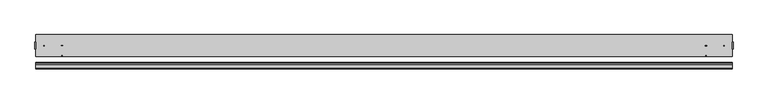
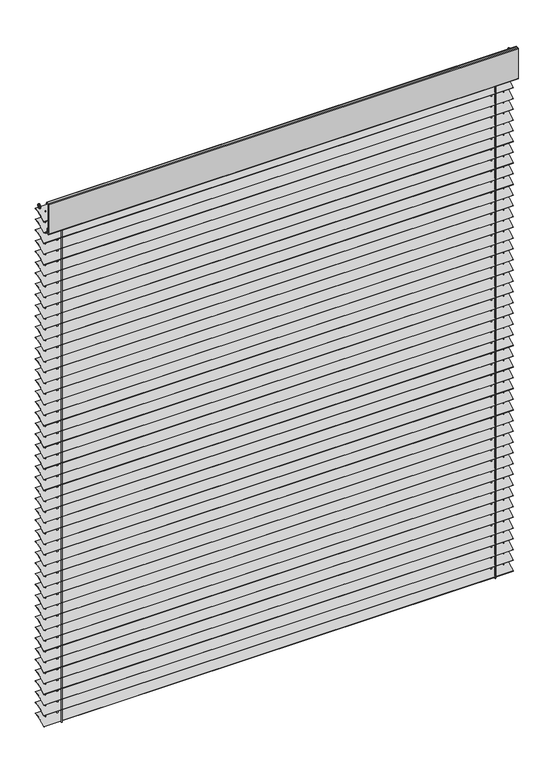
"""IFC4 building model written with IfcOpenShell, lengths in millimetres: proxy geometry, Windows-Blinds Schenker Stores Stores a lamelles Economy EC 70 : Windows-Blinds Schenker Stores Stores a lamelles Economy EC 75."""

from ifc_helpers import new_model, si_unit, point, frame, frame_2d, origin, origin_with_axes, place, context, project, spatial, polyline, circle_curve, trimmed, segment, composite_curve, outline, extrude, source, transform, mapped, element, save


def generic_models_69a6ee1e(model_context):
    return source(origin(), model_context, "Body", "SweptSolid", [
        extrude(outline(composite_curve([segment(trimmed(circle_curve(frame_2d((-18.8646778, 2251.5949116)), 112.7401342), [point((-88.1932392, 2340.4987273))], [point((-22.3317138, 2364.2817233))], False, "CARTESIAN"), True, "CONTINUOUS"), segment(polyline([(-22.3317138, 2364.2817233), (-22.3317138, 2363.2812458)]), True, "CONTINUOUS"), segment(trimmed(circle_curve(frame_2d((-18.8646778, 2251.5949116)), 111.7401342), [point((-22.3317138, 2363.2812458))], [point((-87.5782979, 2339.7101544))], True, "CARTESIAN"), True, "CONTINUOUS"), segment(polyline([(-87.5782979, 2339.7101544), (-88.1932392, 2340.4987273)]), True, "CONTINUOUS")], self_intersect=False)), frame((-1050.0, 0.0, 0.0), z_axis=(1.0, 0.0, 0.0), x_axis=(0.0, 1.0, 0.0)), (0.0, 0.0, 1.0), 2100.0),
        extrude(outline(composite_curve([segment(trimmed(circle_curve(frame_2d((-18.8646778, 2200.8766349)), 112.7401342), [point((-88.1932392, 2289.7804505))], [point((-22.3317138, 2313.5634465))], False, "CARTESIAN"), True, "CONTINUOUS"), segment(polyline([(-22.3317138, 2313.5634465), (-22.3317138, 2312.5629691)]), True, "CONTINUOUS"), segment(trimmed(circle_curve(frame_2d((-18.8646778, 2200.8766349)), 111.7401342), [point((-22.3317138, 2312.5629691))], [point((-87.5782979, 2288.9918776))], True, "CARTESIAN"), True, "CONTINUOUS"), segment(polyline([(-87.5782979, 2288.9918776), (-88.1932392, 2289.7804505)]), True, "CONTINUOUS")], self_intersect=False)), frame((-1050.0, 0.0, 0.0), z_axis=(1.0, 0.0, 0.0), x_axis=(0.0, 1.0, 0.0)), (0.0, 0.0, 1.0), 2100.0),
        extrude(outline(composite_curve([segment(trimmed(circle_curve(frame_2d((-18.8646778, 2150.1583582)), 112.7401342), [point((-88.1932392, 2239.0621738))], [point((-22.3317138, 2262.8451698))], False, "CARTESIAN"), True, "CONTINUOUS"), segment(polyline([(-22.3317138, 2262.8451698), (-22.3317138, 2261.8446923)]), True, "CONTINUOUS"), segment(trimmed(circle_curve(frame_2d((-18.8646778, 2150.1583582)), 111.7401342), [point((-22.3317138, 2261.8446923))], [point((-87.5782979, 2238.2736009))], True, "CARTESIAN"), True, "CONTINUOUS"), segment(polyline([(-87.5782979, 2238.2736009), (-88.1932392, 2239.0621738)]), True, "CONTINUOUS")], self_intersect=False)), frame((-1050.0, 0.0, 0.0), z_axis=(1.0, 0.0, 0.0), x_axis=(0.0, 1.0, 0.0)), (0.0, 0.0, 1.0), 2100.0),
        extrude(outline(composite_curve([segment(trimmed(circle_curve(frame_2d((-18.8646778, 2099.4400814)), 112.7401342), [point((-88.1932392, 2188.343897))], [point((-22.3317138, 2212.126893))], False, "CARTESIAN"), True, "CONTINUOUS"), segment(polyline([(-22.3317138, 2212.126893), (-22.3317138, 2211.1264156)]), True, "CONTINUOUS"), segment(trimmed(circle_curve(frame_2d((-18.8646778, 2099.4400814)), 111.7401342), [point((-22.3317138, 2211.1264156))], [point((-87.5782979, 2187.5553241))], True, "CARTESIAN"), True, "CONTINUOUS"), segment(polyline([(-87.5782979, 2187.5553241), (-88.1932392, 2188.343897)]), True, "CONTINUOUS")], self_intersect=False)), frame((-1050.0, 0.0, 0.0), z_axis=(1.0, 0.0, 0.0), x_axis=(0.0, 1.0, 0.0)), (0.0, 0.0, 1.0), 2100.0),
        extrude(outline(composite_curve([segment(trimmed(circle_curve(frame_2d((-18.8646778, 2048.7218047)), 112.7401342), [point((-88.1932392, 2137.6256203))], [point((-22.3317138, 2161.4086163))], False, "CARTESIAN"), True, "CONTINUOUS"), segment(polyline([(-22.3317138, 2161.4086163), (-22.3317138, 2160.4081389)]), True, "CONTINUOUS"), segment(trimmed(circle_curve(frame_2d((-18.8646778, 2048.7218047)), 111.7401342), [point((-22.3317138, 2160.4081389))], [point((-87.5782979, 2136.8370474))], True, "CARTESIAN"), True, "CONTINUOUS"), segment(polyline([(-87.5782979, 2136.8370474), (-88.1932392, 2137.6256203)]), True, "CONTINUOUS")], self_intersect=False)), frame((-1050.0, 0.0, 0.0), z_axis=(1.0, 0.0, 0.0), x_axis=(0.0, 1.0, 0.0)), (0.0, 0.0, 1.0), 2100.0),
        extrude(outline(composite_curve([segment(trimmed(circle_curve(frame_2d((-18.8646778, 1998.0035279)), 112.7401342), [point((-88.1932392, 2086.9073436))], [point((-22.3317138, 2110.6903395))], False, "CARTESIAN"), True, "CONTINUOUS"), segment(polyline([(-22.3317138, 2110.6903395), (-22.3317138, 2109.6898621)]), True, "CONTINUOUS"), segment(trimmed(circle_curve(frame_2d((-18.8646778, 1998.0035279)), 111.7401342), [point((-22.3317138, 2109.6898621))], [point((-87.5782979, 2086.1187706))], True, "CARTESIAN"), True, "CONTINUOUS"), segment(polyline([(-87.5782979, 2086.1187706), (-88.1932392, 2086.9073436)]), True, "CONTINUOUS")], self_intersect=False)), frame((-1050.0, 0.0, 0.0), z_axis=(1.0, 0.0, 0.0), x_axis=(0.0, 1.0, 0.0)), (0.0, 0.0, 1.0), 2100.0),
        extrude(outline(composite_curve([segment(trimmed(circle_curve(frame_2d((-18.8646778, 1947.2852512)), 112.7401342), [point((-88.1932392, 2036.1890668))], [point((-22.3317138, 2059.9720628))], False, "CARTESIAN"), True, "CONTINUOUS"), segment(polyline([(-22.3317138, 2059.9720628), (-22.3317138, 2058.9715854)]), True, "CONTINUOUS"), segment(trimmed(circle_curve(frame_2d((-18.8646778, 1947.2852512)), 111.7401342), [point((-22.3317138, 2058.9715854))], [point((-87.5782979, 2035.4004939))], True, "CARTESIAN"), True, "CONTINUOUS"), segment(polyline([(-87.5782979, 2035.4004939), (-88.1932392, 2036.1890668)]), True, "CONTINUOUS")], self_intersect=False)), frame((-1050.0, 0.0, 0.0), z_axis=(1.0, 0.0, 0.0), x_axis=(0.0, 1.0, 0.0)), (0.0, 0.0, 1.0), 2100.0),
        extrude(outline(composite_curve([segment(trimmed(circle_curve(frame_2d((-18.8646778, 1896.5669745)), 112.7401342), [point((-88.1932392, 1985.4707901))], [point((-22.3317138, 2009.2537861))], False, "CARTESIAN"), True, "CONTINUOUS"), segment(polyline([(-22.3317138, 2009.2537861), (-22.3317138, 2008.2533086)]), True, "CONTINUOUS"), segment(trimmed(circle_curve(frame_2d((-18.8646778, 1896.5669745)), 111.7401342), [point((-22.3317138, 2008.2533086))], [point((-87.5782979, 1984.6822172))], True, "CARTESIAN"), True, "CONTINUOUS"), segment(polyline([(-87.5782979, 1984.6822172), (-88.1932392, 1985.4707901)]), True, "CONTINUOUS")], self_intersect=False)), frame((-1050.0, 0.0, 0.0), z_axis=(1.0, 0.0, 0.0), x_axis=(0.0, 1.0, 0.0)), (0.0, 0.0, 1.0), 2100.0),
        extrude(outline(composite_curve([segment(trimmed(circle_curve(frame_2d((-18.8646778, 1845.8486977)), 112.7401342), [point((-88.1932392, 1934.7525133))], [point((-22.3317138, 1958.5355093))], False, "CARTESIAN"), True, "CONTINUOUS"), segment(polyline([(-22.3317138, 1958.5355093), (-22.3317138, 1957.5350319)]), True, "CONTINUOUS"), segment(trimmed(circle_curve(frame_2d((-18.8646778, 1845.8486977)), 111.7401342), [point((-22.3317138, 1957.5350319))], [point((-87.5782979, 1933.9639404))], True, "CARTESIAN"), True, "CONTINUOUS"), segment(polyline([(-87.5782979, 1933.9639404), (-88.1932392, 1934.7525133)]), True, "CONTINUOUS")], self_intersect=False)), frame((-1050.0, 0.0, 0.0), z_axis=(1.0, 0.0, 0.0), x_axis=(0.0, 1.0, 0.0)), (0.0, 0.0, 1.0), 2100.0),
        extrude(outline(composite_curve([segment(trimmed(circle_curve(frame_2d((-18.8646778, 1795.130421)), 112.7401342), [point((-88.1932392, 1884.0342366))], [point((-22.3317138, 1907.8172326))], False, "CARTESIAN"), True, "CONTINUOUS"), segment(polyline([(-22.3317138, 1907.8172326), (-22.3317138, 1906.8167551)]), True, "CONTINUOUS"), segment(trimmed(circle_curve(frame_2d((-18.8646778, 1795.130421)), 111.7401342), [point((-22.3317138, 1906.8167551))], [point((-87.5782979, 1883.2456637))], True, "CARTESIAN"), True, "CONTINUOUS"), segment(polyline([(-87.5782979, 1883.2456637), (-88.1932392, 1884.0342366)]), True, "CONTINUOUS")], self_intersect=False)), frame((-1050.0, 0.0, 0.0), z_axis=(1.0, 0.0, 0.0), x_axis=(0.0, 1.0, 0.0)), (0.0, 0.0, 1.0), 2100.0),
        extrude(outline(composite_curve([segment(trimmed(circle_curve(frame_2d((-18.8646778, 1744.4121442)), 112.7401342), [point((-88.1932392, 1833.3159598))], [point((-22.3317138, 1857.0989558))], False, "CARTESIAN"), True, "CONTINUOUS"), segment(polyline([(-22.3317138, 1857.0989558), (-22.3317138, 1856.0984784)]), True, "CONTINUOUS"), segment(trimmed(circle_curve(frame_2d((-18.8646778, 1744.4121442)), 111.7401342), [point((-22.3317138, 1856.0984784))], [point((-87.5782979, 1832.5273869))], True, "CARTESIAN"), True, "CONTINUOUS"), segment(polyline([(-87.5782979, 1832.5273869), (-88.1932392, 1833.3159598)]), True, "CONTINUOUS")], self_intersect=False)), frame((-1050.0, 0.0, 0.0), z_axis=(1.0, 0.0, 0.0), x_axis=(0.0, 1.0, 0.0)), (0.0, 0.0, 1.0), 2100.0),
        extrude(outline(composite_curve([segment(trimmed(circle_curve(frame_2d((-18.8646778, 1693.6938675)), 112.7401342), [point((-88.1932392, 1782.5976831))], [point((-22.3317138, 1806.3806791))], False, "CARTESIAN"), True, "CONTINUOUS"), segment(polyline([(-22.3317138, 1806.3806791), (-22.3317138, 1805.3802017)]), True, "CONTINUOUS"), segment(trimmed(circle_curve(frame_2d((-18.8646778, 1693.6938675)), 111.7401342), [point((-22.3317138, 1805.3802017))], [point((-87.5782979, 1781.8091102))], True, "CARTESIAN"), True, "CONTINUOUS"), segment(polyline([(-87.5782979, 1781.8091102), (-88.1932392, 1782.5976831)]), True, "CONTINUOUS")], self_intersect=False)), frame((-1050.0, 0.0, 0.0), z_axis=(1.0, 0.0, 0.0), x_axis=(0.0, 1.0, 0.0)), (0.0, 0.0, 1.0), 2100.0),
        extrude(outline(composite_curve([segment(trimmed(circle_curve(frame_2d((-18.8646778, 1642.9755907)), 112.7401342), [point((-88.1932392, 1731.8794064))], [point((-22.3317138, 1755.6624023))], False, "CARTESIAN"), True, "CONTINUOUS"), segment(polyline([(-22.3317138, 1755.6624023), (-22.3317138, 1754.6619249)]), True, "CONTINUOUS"), segment(trimmed(circle_curve(frame_2d((-18.8646778, 1642.9755907)), 111.7401342), [point((-22.3317138, 1754.6619249))], [point((-87.5782979, 1731.0908335))], True, "CARTESIAN"), True, "CONTINUOUS"), segment(polyline([(-87.5782979, 1731.0908335), (-88.1932392, 1731.8794064)]), True, "CONTINUOUS")], self_intersect=False)), frame((-1050.0, 0.0, 0.0), z_axis=(1.0, 0.0, 0.0), x_axis=(0.0, 1.0, 0.0)), (0.0, 0.0, 1.0), 2100.0),
        extrude(outline(composite_curve([segment(trimmed(circle_curve(frame_2d((-18.8646778, 1592.257314)), 112.7401342), [point((-88.1932392, 1681.1611296))], [point((-22.3317138, 1704.9441256))], False, "CARTESIAN"), True, "CONTINUOUS"), segment(polyline([(-22.3317138, 1704.9441256), (-22.3317138, 1703.9436482)]), True, "CONTINUOUS"), segment(trimmed(circle_curve(frame_2d((-18.8646778, 1592.257314)), 111.7401342), [point((-22.3317138, 1703.9436482))], [point((-87.5782979, 1680.3725567))], True, "CARTESIAN"), True, "CONTINUOUS"), segment(polyline([(-87.5782979, 1680.3725567), (-88.1932392, 1681.1611296)]), True, "CONTINUOUS")], self_intersect=False)), frame((-1050.0, 0.0, 0.0), z_axis=(1.0, 0.0, 0.0), x_axis=(0.0, 1.0, 0.0)), (0.0, 0.0, 1.0), 2100.0),
        extrude(outline(composite_curve([segment(trimmed(circle_curve(frame_2d((-18.8646778, 1541.5390373)), 112.7401342), [point((-88.1932392, 1630.4428529))], [point((-22.3317138, 1654.2258489))], False, "CARTESIAN"), True, "CONTINUOUS"), segment(polyline([(-22.3317138, 1654.2258489), (-22.3317138, 1653.2253714)]), True, "CONTINUOUS"), segment(trimmed(circle_curve(frame_2d((-18.8646778, 1541.5390373)), 111.7401342), [point((-22.3317138, 1653.2253714))], [point((-87.5782979, 1629.65428))], True, "CARTESIAN"), True, "CONTINUOUS"), segment(polyline([(-87.5782979, 1629.65428), (-88.1932392, 1630.4428529)]), True, "CONTINUOUS")], self_intersect=False)), frame((-1050.0, 0.0, 0.0), z_axis=(1.0, 0.0, 0.0), x_axis=(0.0, 1.0, 0.0)), (0.0, 0.0, 1.0), 2100.0),
        extrude(outline(composite_curve([segment(trimmed(circle_curve(frame_2d((-18.8646778, 1490.8207605)), 112.7401342), [point((-88.1932392, 1579.7245761))], [point((-22.3317138, 1603.5075721))], False, "CARTESIAN"), True, "CONTINUOUS"), segment(polyline([(-22.3317138, 1603.5075721), (-22.3317138, 1602.5070947)]), True, "CONTINUOUS"), segment(trimmed(circle_curve(frame_2d((-18.8646778, 1490.8207605)), 111.7401342), [point((-22.3317138, 1602.5070947))], [point((-87.5782979, 1578.9360032))], True, "CARTESIAN"), True, "CONTINUOUS"), segment(polyline([(-87.5782979, 1578.9360032), (-88.1932392, 1579.7245761)]), True, "CONTINUOUS")], self_intersect=False)), frame((-1050.0, 0.0, 0.0), z_axis=(1.0, 0.0, 0.0), x_axis=(0.0, 1.0, 0.0)), (0.0, 0.0, 1.0), 2100.0),
        extrude(outline(composite_curve([segment(trimmed(circle_curve(frame_2d((-18.8646778, 1440.1024838)), 112.7401342), [point((-88.1932392, 1529.0062994))], [point((-22.3317138, 1552.7892954))], False, "CARTESIAN"), True, "CONTINUOUS"), segment(polyline([(-22.3317138, 1552.7892954), (-22.3317138, 1551.788818)]), True, "CONTINUOUS"), segment(trimmed(circle_curve(frame_2d((-18.8646778, 1440.1024838)), 111.7401342), [point((-22.3317138, 1551.788818))], [point((-87.5782979, 1528.2177265))], True, "CARTESIAN"), True, "CONTINUOUS"), segment(polyline([(-87.5782979, 1528.2177265), (-88.1932392, 1529.0062994)]), True, "CONTINUOUS")], self_intersect=False)), frame((-1050.0, 0.0, 0.0), z_axis=(1.0, 0.0, 0.0), x_axis=(0.0, 1.0, 0.0)), (0.0, 0.0, 1.0), 2100.0),
        extrude(outline(composite_curve([segment(trimmed(circle_curve(frame_2d((-18.8646778, 1389.384207)), 112.7401342), [point((-88.1932392, 1478.2880227))], [point((-22.3317138, 1502.0710186))], False, "CARTESIAN"), True, "CONTINUOUS"), segment(polyline([(-22.3317138, 1502.0710186), (-22.3317138, 1501.0705412)]), True, "CONTINUOUS"), segment(trimmed(circle_curve(frame_2d((-18.8646778, 1389.384207)), 111.7401342), [point((-22.3317138, 1501.0705412))], [point((-87.5782979, 1477.4994497))], True, "CARTESIAN"), True, "CONTINUOUS"), segment(polyline([(-87.5782979, 1477.4994497), (-88.1932392, 1478.2880227)]), True, "CONTINUOUS")], self_intersect=False)), frame((-1050.0, 0.0, 0.0), z_axis=(1.0, 0.0, 0.0), x_axis=(0.0, 1.0, 0.0)), (0.0, 0.0, 1.0), 2100.0),
        extrude(outline(composite_curve([segment(trimmed(circle_curve(frame_2d((-18.8646778, 1338.6659303)), 112.7401342), [point((-88.1932392, 1427.5697459))], [point((-22.3317138, 1451.3527419))], False, "CARTESIAN"), True, "CONTINUOUS"), segment(polyline([(-22.3317138, 1451.3527419), (-22.3317138, 1450.3522645)]), True, "CONTINUOUS"), segment(trimmed(circle_curve(frame_2d((-18.8646778, 1338.6659303)), 111.7401342), [point((-22.3317138, 1450.3522645))], [point((-87.5782979, 1426.781173))], True, "CARTESIAN"), True, "CONTINUOUS"), segment(polyline([(-87.5782979, 1426.781173), (-88.1932392, 1427.5697459)]), True, "CONTINUOUS")], self_intersect=False)), frame((-1050.0, 0.0, 0.0), z_axis=(1.0, 0.0, 0.0), x_axis=(0.0, 1.0, 0.0)), (0.0, 0.0, 1.0), 2100.0),
        extrude(outline(composite_curve([segment(trimmed(circle_curve(frame_2d((-18.8646778, 1287.9476535)), 112.7401342), [point((-88.1932392, 1376.8514692))], [point((-22.3317138, 1400.6344652))], False, "CARTESIAN"), True, "CONTINUOUS"), segment(polyline([(-22.3317138, 1400.6344652), (-22.3317138, 1399.6339877)]), True, "CONTINUOUS"), segment(trimmed(circle_curve(frame_2d((-18.8646778, 1287.9476535)), 111.7401342), [point((-22.3317138, 1399.6339877))], [point((-87.5782979, 1376.0628963))], True, "CARTESIAN"), True, "CONTINUOUS"), segment(polyline([(-87.5782979, 1376.0628963), (-88.1932392, 1376.8514692)]), True, "CONTINUOUS")], self_intersect=False)), frame((-1050.0, 0.0, 0.0), z_axis=(1.0, 0.0, 0.0), x_axis=(0.0, 1.0, 0.0)), (0.0, 0.0, 1.0), 2100.0),
        extrude(outline(composite_curve([segment(trimmed(circle_curve(frame_2d((-18.8646778, 1237.2293768)), 112.7401342), [point((-88.1932392, 1326.1331924))], [point((-22.3317138, 1349.9161884))], False, "CARTESIAN"), True, "CONTINUOUS"), segment(polyline([(-22.3317138, 1349.9161884), (-22.3317138, 1348.915711)]), True, "CONTINUOUS"), segment(trimmed(circle_curve(frame_2d((-18.8646778, 1237.2293768)), 111.7401342), [point((-22.3317138, 1348.915711))], [point((-87.5782979, 1325.3446195))], True, "CARTESIAN"), True, "CONTINUOUS"), segment(polyline([(-87.5782979, 1325.3446195), (-88.1932392, 1326.1331924)]), True, "CONTINUOUS")], self_intersect=False)), frame((-1050.0, 0.0, 0.0), z_axis=(1.0, 0.0, 0.0), x_axis=(0.0, 1.0, 0.0)), (0.0, 0.0, 1.0), 2100.0),
        extrude(outline(composite_curve([segment(trimmed(circle_curve(frame_2d((-18.8646778, 1186.5111001)), 112.7401342), [point((-88.1932392, 1275.4149157))], [point((-22.3317138, 1299.1979117))], False, "CARTESIAN"), True, "CONTINUOUS"), segment(polyline([(-22.3317138, 1299.1979117), (-22.3317138, 1298.1974342)]), True, "CONTINUOUS"), segment(trimmed(circle_curve(frame_2d((-18.8646778, 1186.5111001)), 111.7401342), [point((-22.3317138, 1298.1974342))], [point((-87.5782979, 1274.6263428))], True, "CARTESIAN"), True, "CONTINUOUS"), segment(polyline([(-87.5782979, 1274.6263428), (-88.1932392, 1275.4149157)]), True, "CONTINUOUS")], self_intersect=False)), frame((-1050.0, 0.0, 0.0), z_axis=(1.0, 0.0, 0.0), x_axis=(0.0, 1.0, 0.0)), (0.0, 0.0, 1.0), 2100.0),
        extrude(outline(composite_curve([segment(trimmed(circle_curve(frame_2d((-18.8646778, 1135.7928233)), 112.7401342), [point((-88.1932392, 1224.6966389))], [point((-22.3317138, 1248.4796349))], False, "CARTESIAN"), True, "CONTINUOUS"), segment(polyline([(-22.3317138, 1248.4796349), (-22.3317138, 1247.4791575)]), True, "CONTINUOUS"), segment(trimmed(circle_curve(frame_2d((-18.8646778, 1135.7928233)), 111.7401342), [point((-22.3317138, 1247.4791575))], [point((-87.5782979, 1223.908066))], True, "CARTESIAN"), True, "CONTINUOUS"), segment(polyline([(-87.5782979, 1223.908066), (-88.1932392, 1224.6966389)]), True, "CONTINUOUS")], self_intersect=False)), frame((-1050.0, 0.0, 0.0), z_axis=(1.0, 0.0, 0.0), x_axis=(0.0, 1.0, 0.0)), (0.0, 0.0, 1.0), 2100.0),
        extrude(outline(composite_curve([segment(trimmed(circle_curve(frame_2d((-18.8646778, 1085.0745466)), 112.7401342), [point((-88.1932392, 1173.9783622))], [point((-22.3317138, 1197.7613582))], False, "CARTESIAN"), True, "CONTINUOUS"), segment(polyline([(-22.3317138, 1197.7613582), (-22.3317138, 1196.7608808)]), True, "CONTINUOUS"), segment(trimmed(circle_curve(frame_2d((-18.8646778, 1085.0745466)), 111.7401342), [point((-22.3317138, 1196.7608808))], [point((-87.5782979, 1173.1897893))], True, "CARTESIAN"), True, "CONTINUOUS"), segment(polyline([(-87.5782979, 1173.1897893), (-88.1932392, 1173.9783622)]), True, "CONTINUOUS")], self_intersect=False)), frame((-1050.0, 0.0, 0.0), z_axis=(1.0, 0.0, 0.0), x_axis=(0.0, 1.0, 0.0)), (0.0, 0.0, 1.0), 2100.0),
        extrude(outline(composite_curve([segment(trimmed(circle_curve(frame_2d((-18.8646778, 1034.3562698)), 112.7401342), [point((-88.1932392, 1123.2600855))], [point((-22.3317138, 1147.0430814))], False, "CARTESIAN"), True, "CONTINUOUS"), segment(polyline([(-22.3317138, 1147.0430814), (-22.3317138, 1146.042604)]), True, "CONTINUOUS"), segment(trimmed(circle_curve(frame_2d((-18.8646778, 1034.3562698)), 111.7401342), [point((-22.3317138, 1146.042604))], [point((-87.5782979, 1122.4715125))], True, "CARTESIAN"), True, "CONTINUOUS"), segment(polyline([(-87.5782979, 1122.4715125), (-88.1932392, 1123.2600855)]), True, "CONTINUOUS")], self_intersect=False)), frame((-1050.0, 0.0, 0.0), z_axis=(1.0, 0.0, 0.0), x_axis=(0.0, 1.0, 0.0)), (0.0, 0.0, 1.0), 2100.0),
        extrude(outline(composite_curve([segment(trimmed(circle_curve(frame_2d((-18.8646778, 983.6379931)), 112.7401342), [point((-88.1932392, 1072.5418087))], [point((-22.3317138, 1096.3248047))], False, "CARTESIAN"), True, "CONTINUOUS"), segment(polyline([(-22.3317138, 1096.3248047), (-22.3317138, 1095.3243273)]), True, "CONTINUOUS"), segment(trimmed(circle_curve(frame_2d((-18.8646778, 983.6379931)), 111.7401342), [point((-22.3317138, 1095.3243273))], [point((-87.5782979, 1071.7532358))], True, "CARTESIAN"), True, "CONTINUOUS"), segment(polyline([(-87.5782979, 1071.7532358), (-88.1932392, 1072.5418087)]), True, "CONTINUOUS")], self_intersect=False)), frame((-1050.0, 0.0, 0.0), z_axis=(1.0, 0.0, 0.0), x_axis=(0.0, 1.0, 0.0)), (0.0, 0.0, 1.0), 2100.0),
        extrude(outline(composite_curve([segment(trimmed(circle_curve(frame_2d((-18.8646778, 932.9197163)), 112.7401342), [point((-88.1932392, 1021.823532))], [point((-22.3317138, 1045.606528))], False, "CARTESIAN"), True, "CONTINUOUS"), segment(polyline([(-22.3317138, 1045.606528), (-22.3317138, 1044.6060505)]), True, "CONTINUOUS"), segment(trimmed(circle_curve(frame_2d((-18.8646778, 932.9197163)), 111.7401342), [point((-22.3317138, 1044.6060505))], [point((-87.5782979, 1021.0349591))], True, "CARTESIAN"), True, "CONTINUOUS"), segment(polyline([(-87.5782979, 1021.0349591), (-88.1932392, 1021.823532)]), True, "CONTINUOUS")], self_intersect=False)), frame((-1050.0, 0.0, 0.0), z_axis=(1.0, 0.0, 0.0), x_axis=(0.0, 1.0, 0.0)), (0.0, 0.0, 1.0), 2100.0),
        extrude(outline(composite_curve([segment(trimmed(circle_curve(frame_2d((-18.8646778, 882.2014396)), 112.7401342), [point((-88.1932392, 971.1052552))], [point((-22.3317138, 994.8882512))], False, "CARTESIAN"), True, "CONTINUOUS"), segment(polyline([(-22.3317138, 994.8882512), (-22.3317138, 993.8877738)]), True, "CONTINUOUS"), segment(trimmed(circle_curve(frame_2d((-18.8646778, 882.2014396)), 111.7401342), [point((-22.3317138, 993.8877738))], [point((-87.5782979, 970.3166823))], True, "CARTESIAN"), True, "CONTINUOUS"), segment(polyline([(-87.5782979, 970.3166823), (-88.1932392, 971.1052552)]), True, "CONTINUOUS")], self_intersect=False)), frame((-1050.0, 0.0, 0.0), z_axis=(1.0, 0.0, 0.0), x_axis=(0.0, 1.0, 0.0)), (0.0, 0.0, 1.0), 2100.0),
        extrude(outline(composite_curve([segment(trimmed(circle_curve(frame_2d((-18.8646778, 831.4831629)), 112.7401342), [point((-88.1932392, 920.3869785))], [point((-22.3317138, 944.1699745))], False, "CARTESIAN"), True, "CONTINUOUS"), segment(polyline([(-22.3317138, 944.1699745), (-22.3317138, 943.169497)]), True, "CONTINUOUS"), segment(trimmed(circle_curve(frame_2d((-18.8646778, 831.4831629)), 111.7401342), [point((-22.3317138, 943.169497))], [point((-87.5782979, 919.5984056))], True, "CARTESIAN"), True, "CONTINUOUS"), segment(polyline([(-87.5782979, 919.5984056), (-88.1932392, 920.3869785)]), True, "CONTINUOUS")], self_intersect=False)), frame((-1050.0, 0.0, 0.0), z_axis=(1.0, 0.0, 0.0), x_axis=(0.0, 1.0, 0.0)), (0.0, 0.0, 1.0), 2100.0),
        extrude(outline(composite_curve([segment(trimmed(circle_curve(frame_2d((-18.8646778, 780.7648861)), 112.7401342), [point((-88.1932392, 869.6687017))], [point((-22.3317138, 893.4516977))], False, "CARTESIAN"), True, "CONTINUOUS"), segment(polyline([(-22.3317138, 893.4516977), (-22.3317138, 892.4512203)]), True, "CONTINUOUS"), segment(trimmed(circle_curve(frame_2d((-18.8646778, 780.7648861)), 111.7401342), [point((-22.3317138, 892.4512203))], [point((-87.5782979, 868.8801288))], True, "CARTESIAN"), True, "CONTINUOUS"), segment(polyline([(-87.5782979, 868.8801288), (-88.1932392, 869.6687017)]), True, "CONTINUOUS")], self_intersect=False)), frame((-1050.0, 0.0, 0.0), z_axis=(1.0, 0.0, 0.0), x_axis=(0.0, 1.0, 0.0)), (0.0, 0.0, 1.0), 2100.0),
        extrude(outline(composite_curve([segment(trimmed(circle_curve(frame_2d((-18.8646778, 730.0466094)), 112.7401342), [point((-88.1932392, 818.950425))], [point((-22.3317138, 842.733421))], False, "CARTESIAN"), True, "CONTINUOUS"), segment(polyline([(-22.3317138, 842.733421), (-22.3317138, 841.7329436)]), True, "CONTINUOUS"), segment(trimmed(circle_curve(frame_2d((-18.8646778, 730.0466094)), 111.7401342), [point((-22.3317138, 841.7329436))], [point((-87.5782979, 818.1618521))], True, "CARTESIAN"), True, "CONTINUOUS"), segment(polyline([(-87.5782979, 818.1618521), (-88.1932392, 818.950425)]), True, "CONTINUOUS")], self_intersect=False)), frame((-1050.0, 0.0, 0.0), z_axis=(1.0, 0.0, 0.0), x_axis=(0.0, 1.0, 0.0)), (0.0, 0.0, 1.0), 2100.0),
        extrude(outline(composite_curve([segment(trimmed(circle_curve(frame_2d((-18.8646778, 679.3283326)), 112.7401342), [point((-88.1932392, 768.2321483))], [point((-22.3317138, 792.0151442))], False, "CARTESIAN"), True, "CONTINUOUS"), segment(polyline([(-22.3317138, 792.0151442), (-22.3317138, 791.0146668)]), True, "CONTINUOUS"), segment(trimmed(circle_curve(frame_2d((-18.8646778, 679.3283326)), 111.7401342), [point((-22.3317138, 791.0146668))], [point((-87.5782979, 767.4435753))], True, "CARTESIAN"), True, "CONTINUOUS"), segment(polyline([(-87.5782979, 767.4435753), (-88.1932392, 768.2321483)]), True, "CONTINUOUS")], self_intersect=False)), frame((-1050.0, 0.0, 0.0), z_axis=(1.0, 0.0, 0.0), x_axis=(0.0, 1.0, 0.0)), (0.0, 0.0, 1.0), 2100.0),
        extrude(outline(composite_curve([segment(trimmed(circle_curve(frame_2d((-18.8646778, 628.6100559)), 112.7401342), [point((-88.1932392, 717.5138715))], [point((-22.3317138, 741.2968675))], False, "CARTESIAN"), True, "CONTINUOUS"), segment(polyline([(-22.3317138, 741.2968675), (-22.3317138, 740.2963901)]), True, "CONTINUOUS"), segment(trimmed(circle_curve(frame_2d((-18.8646778, 628.6100559)), 111.7401342), [point((-22.3317138, 740.2963901))], [point((-87.5782979, 716.7252986))], True, "CARTESIAN"), True, "CONTINUOUS"), segment(polyline([(-87.5782979, 716.7252986), (-88.1932392, 717.5138715)]), True, "CONTINUOUS")], self_intersect=False)), frame((-1050.0, 0.0, 0.0), z_axis=(1.0, 0.0, 0.0), x_axis=(0.0, 1.0, 0.0)), (0.0, 0.0, 1.0), 2100.0),
        extrude(outline(composite_curve([segment(trimmed(circle_curve(frame_2d((-18.8646778, 577.8917792)), 112.7401342), [point((-88.1932392, 666.7955948))], [point((-22.3317138, 690.5785908))], False, "CARTESIAN"), True, "CONTINUOUS"), segment(polyline([(-22.3317138, 690.5785908), (-22.3317138, 689.5781133)]), True, "CONTINUOUS"), segment(trimmed(circle_curve(frame_2d((-18.8646778, 577.8917792)), 111.7401342), [point((-22.3317138, 689.5781133))], [point((-87.5782979, 666.0070219))], True, "CARTESIAN"), True, "CONTINUOUS"), segment(polyline([(-87.5782979, 666.0070219), (-88.1932392, 666.7955948)]), True, "CONTINUOUS")], self_intersect=False)), frame((-1050.0, 0.0, 0.0), z_axis=(1.0, 0.0, 0.0), x_axis=(0.0, 1.0, 0.0)), (0.0, 0.0, 1.0), 2100.0),
        extrude(outline(composite_curve([segment(trimmed(circle_curve(frame_2d((-18.8646778, 527.1735024)), 112.7401342), [point((-88.1932392, 616.077318))], [point((-22.3317138, 639.860314))], False, "CARTESIAN"), True, "CONTINUOUS"), segment(polyline([(-22.3317138, 639.860314), (-22.3317138, 638.8598366)]), True, "CONTINUOUS"), segment(trimmed(circle_curve(frame_2d((-18.8646778, 527.1735024)), 111.7401342), [point((-22.3317138, 638.8598366))], [point((-87.5782979, 615.2887451))], True, "CARTESIAN"), True, "CONTINUOUS"), segment(polyline([(-87.5782979, 615.2887451), (-88.1932392, 616.077318)]), True, "CONTINUOUS")], self_intersect=False)), frame((-1050.0, 0.0, 0.0), z_axis=(1.0, 0.0, 0.0), x_axis=(0.0, 1.0, 0.0)), (0.0, 0.0, 1.0), 2100.0),
        extrude(outline(composite_curve([segment(trimmed(circle_curve(frame_2d((-18.8646778, 476.4552257)), 112.7401342), [point((-88.1932392, 565.3590413))], [point((-22.3317138, 589.1420373))], False, "CARTESIAN"), True, "CONTINUOUS"), segment(polyline([(-22.3317138, 589.1420373), (-22.3317138, 588.1415598)]), True, "CONTINUOUS"), segment(trimmed(circle_curve(frame_2d((-18.8646778, 476.4552257)), 111.7401342), [point((-22.3317138, 588.1415598))], [point((-87.5782979, 564.5704684))], True, "CARTESIAN"), True, "CONTINUOUS"), segment(polyline([(-87.5782979, 564.5704684), (-88.1932392, 565.3590413)]), True, "CONTINUOUS")], self_intersect=False)), frame((-1050.0, 0.0, 0.0), z_axis=(1.0, 0.0, 0.0), x_axis=(0.0, 1.0, 0.0)), (0.0, 0.0, 1.0), 2100.0),
        extrude(outline(composite_curve([segment(trimmed(circle_curve(frame_2d((-18.8646778, 425.7369489)), 112.7401342), [point((-88.1932392, 514.6407645))], [point((-22.3317138, 538.4237605))], False, "CARTESIAN"), True, "CONTINUOUS"), segment(polyline([(-22.3317138, 538.4237605), (-22.3317138, 537.4232831)]), True, "CONTINUOUS"), segment(trimmed(circle_curve(frame_2d((-18.8646778, 425.7369489)), 111.7401342), [point((-22.3317138, 537.4232831))], [point((-87.5782979, 513.8521916))], True, "CARTESIAN"), True, "CONTINUOUS"), segment(polyline([(-87.5782979, 513.8521916), (-88.1932392, 514.6407645)]), True, "CONTINUOUS")], self_intersect=False)), frame((-1050.0, 0.0, 0.0), z_axis=(1.0, 0.0, 0.0), x_axis=(0.0, 1.0, 0.0)), (0.0, 0.0, 1.0), 2100.0),
        extrude(outline(composite_curve([segment(trimmed(circle_curve(frame_2d((-18.8646778, 375.0186722)), 112.7401342), [point((-88.1932392, 463.9224878))], [point((-22.3317138, 487.7054838))], False, "CARTESIAN"), True, "CONTINUOUS"), segment(polyline([(-22.3317138, 487.7054838), (-22.3317138, 486.7050064)]), True, "CONTINUOUS"), segment(trimmed(circle_curve(frame_2d((-18.8646778, 375.0186722)), 111.7401342), [point((-22.3317138, 486.7050064))], [point((-87.5782979, 463.1339149))], True, "CARTESIAN"), True, "CONTINUOUS"), segment(polyline([(-87.5782979, 463.1339149), (-88.1932392, 463.9224878)]), True, "CONTINUOUS")], self_intersect=False)), frame((-1050.0, 0.0, 0.0), z_axis=(1.0, 0.0, 0.0), x_axis=(0.0, 1.0, 0.0)), (0.0, 0.0, 1.0), 2100.0),
        extrude(outline(composite_curve([segment(trimmed(circle_curve(frame_2d((-18.8646778, 324.3003954)), 112.7401342), [point((-88.1932392, 413.2042111))], [point((-22.3317138, 436.987207))], False, "CARTESIAN"), True, "CONTINUOUS"), segment(polyline([(-22.3317138, 436.987207), (-22.3317138, 435.9867296)]), True, "CONTINUOUS"), segment(trimmed(circle_curve(frame_2d((-18.8646778, 324.3003954)), 111.7401342), [point((-22.3317138, 435.9867296))], [point((-87.5782979, 412.4156382))], True, "CARTESIAN"), True, "CONTINUOUS"), segment(polyline([(-87.5782979, 412.4156382), (-88.1932392, 413.2042111)]), True, "CONTINUOUS")], self_intersect=False)), frame((-1050.0, 0.0, 0.0), z_axis=(1.0, 0.0, 0.0), x_axis=(0.0, 1.0, 0.0)), (0.0, 0.0, 1.0), 2100.0),
        extrude(outline(composite_curve([segment(trimmed(circle_curve(frame_2d((-18.8646778, 273.5821187)), 112.7401342), [point((-88.1932392, 362.4859343))], [point((-22.3317138, 386.2689303))], False, "CARTESIAN"), True, "CONTINUOUS"), segment(polyline([(-22.3317138, 386.2689303), (-22.3317138, 385.2684529)]), True, "CONTINUOUS"), segment(trimmed(circle_curve(frame_2d((-18.8646778, 273.5821187)), 111.7401342), [point((-22.3317138, 385.2684529))], [point((-87.5782979, 361.6973614))], True, "CARTESIAN"), True, "CONTINUOUS"), segment(polyline([(-87.5782979, 361.6973614), (-88.1932392, 362.4859343)]), True, "CONTINUOUS")], self_intersect=False)), frame((-1050.0, 0.0, 0.0), z_axis=(1.0, 0.0, 0.0), x_axis=(0.0, 1.0, 0.0)), (0.0, 0.0, 1.0), 2100.0),
        extrude(outline(composite_curve([segment(trimmed(circle_curve(frame_2d((-18.8646778, 222.863842)), 112.7401342), [point((-88.1932392, 311.7676576))], [point((-22.3317138, 335.5506536))], False, "CARTESIAN"), True, "CONTINUOUS"), segment(polyline([(-22.3317138, 335.5506536), (-22.3317138, 334.5501761)]), True, "CONTINUOUS"), segment(trimmed(circle_curve(frame_2d((-18.8646778, 222.863842)), 111.7401342), [point((-22.3317138, 334.5501761))], [point((-87.5782979, 310.9790847))], True, "CARTESIAN"), True, "CONTINUOUS"), segment(polyline([(-87.5782979, 310.9790847), (-88.1932392, 311.7676576)]), True, "CONTINUOUS")], self_intersect=False)), frame((-1050.0, 0.0, 0.0), z_axis=(1.0, 0.0, 0.0), x_axis=(0.0, 1.0, 0.0)), (0.0, 0.0, 1.0), 2100.0),
        extrude(outline(composite_curve([segment(trimmed(circle_curve(frame_2d((-18.8646778, 172.1455652)), 112.7401342), [point((-88.1932392, 261.0493808))], [point((-22.3317138, 284.8323768))], False, "CARTESIAN"), True, "CONTINUOUS"), segment(polyline([(-22.3317138, 284.8323768), (-22.3317138, 283.8318994)]), True, "CONTINUOUS"), segment(trimmed(circle_curve(frame_2d((-18.8646778, 172.1455652)), 111.7401342), [point((-22.3317138, 283.8318994))], [point((-87.5782979, 260.2608079))], True, "CARTESIAN"), True, "CONTINUOUS"), segment(polyline([(-87.5782979, 260.2608079), (-88.1932392, 261.0493808)]), True, "CONTINUOUS")], self_intersect=False)), frame((-1050.0, 0.0, 0.0), z_axis=(1.0, 0.0, 0.0), x_axis=(0.0, 1.0, 0.0)), (0.0, 0.0, 1.0), 2100.0),
        extrude(outline(composite_curve([segment(trimmed(circle_curve(frame_2d((-18.8646778, 121.4272885)), 112.7401342), [point((-88.1932392, 210.3311041))], [point((-22.3317138, 234.1141001))], False, "CARTESIAN"), True, "CONTINUOUS"), segment(polyline([(-22.3317138, 234.1141001), (-22.3317138, 233.1136226)]), True, "CONTINUOUS"), segment(trimmed(circle_curve(frame_2d((-18.8646778, 121.4272885)), 111.7401342), [point((-22.3317138, 233.1136226))], [point((-87.5782979, 209.5425312))], True, "CARTESIAN"), True, "CONTINUOUS"), segment(polyline([(-87.5782979, 209.5425312), (-88.1932392, 210.3311041)]), True, "CONTINUOUS")], self_intersect=False)), frame((-1050.0, 0.0, 0.0), z_axis=(1.0, 0.0, 0.0), x_axis=(0.0, 1.0, 0.0)), (0.0, 0.0, 1.0), 2100.0),
        extrude(outline(composite_curve([segment(trimmed(circle_curve(frame_2d((-18.8646778, 70.7090117)), 112.7401342), [point((-88.1932392, 159.6128274))], [point((-22.3317138, 183.3958233))], False, "CARTESIAN"), True, "CONTINUOUS"), segment(polyline([(-22.3317138, 183.3958233), (-22.3317138, 182.3953459)]), True, "CONTINUOUS"), segment(trimmed(circle_curve(frame_2d((-18.8646778, 70.7090117)), 111.7401342), [point((-22.3317138, 182.3953459))], [point((-87.5782979, 158.8242544))], True, "CARTESIAN"), True, "CONTINUOUS"), segment(polyline([(-87.5782979, 158.8242544), (-88.1932392, 159.6128274)]), True, "CONTINUOUS")], self_intersect=False)), frame((-1050.0, 0.0, 0.0), z_axis=(1.0, 0.0, 0.0), x_axis=(0.0, 1.0, 0.0)), (0.0, 0.0, 1.0), 2100.0),
        extrude(outline(composite_curve([segment(trimmed(circle_curve(frame_2d((-18.8646778, 19.990735)), 112.7401342), [point((-88.1932392, 108.8945506))], [point((-22.3317138, 132.6775466))], False, "CARTESIAN"), True, "CONTINUOUS"), segment(polyline([(-22.3317138, 132.6775466), (-22.3317138, 131.6770692)]), True, "CONTINUOUS"), segment(trimmed(circle_curve(frame_2d((-18.8646778, 19.990735)), 111.7401342), [point((-22.3317138, 131.6770692))], [point((-87.5782979, 108.1059777))], True, "CARTESIAN"), True, "CONTINUOUS"), segment(polyline([(-87.5782979, 108.1059777), (-88.1932392, 108.8945506)]), True, "CONTINUOUS")], self_intersect=False)), frame((-1050.0, 0.0, 0.0), z_axis=(1.0, 0.0, 0.0), x_axis=(0.0, 1.0, 0.0)), (0.0, 0.0, 1.0), 2100.0),
        extrude(outline(composite_curve([segment(trimmed(circle_curve(frame_2d((-18.8646778, -30.7275418)), 112.7401342), [point((-88.1932392, 58.1762739))], [point((-22.3317138, 81.9592699))], False, "CARTESIAN"), True, "CONTINUOUS"), segment(polyline([(-22.3317138, 81.9592699), (-22.3317138, 80.9587924)]), True, "CONTINUOUS"), segment(trimmed(circle_curve(frame_2d((-18.8646778, -30.7275418)), 111.7401342), [point((-22.3317138, 80.9587924))], [point((-87.5782979, 57.387701))], True, "CARTESIAN"), True, "CONTINUOUS"), segment(polyline([(-87.5782979, 57.387701), (-88.1932392, 58.1762739)]), True, "CONTINUOUS")], self_intersect=False)), frame((-1050.0, 0.0, 0.0), z_axis=(1.0, 0.0, 0.0), x_axis=(0.0, 1.0, 0.0)), (0.0, 0.0, 1.0), 2100.0),
        extrude(outline(composite_curve([segment(trimmed(circle_curve(frame_2d((-18.8646778, 2302.3131884)), 112.7401342), [point((-88.1932392, 2391.217004))], [point((-22.3317138, 2415.0))], False, "CARTESIAN"), True, "CONTINUOUS"), segment(polyline([(-22.3317138, 2415.0), (-22.3317138, 2413.9995226)]), True, "CONTINUOUS"), segment(trimmed(circle_curve(frame_2d((-18.8646778, 2302.3131884)), 111.7401342), [point((-22.3317138, 2413.9995226))], [point((-87.5782979, 2390.4284311))], True, "CARTESIAN"), True, "CONTINUOUS"), segment(polyline([(-87.5782979, 2390.4284311), (-88.1932392, 2391.217004)]), True, "CONTINUOUS")], self_intersect=False)), frame((-1050.0, 0.0, 0.0), z_axis=(1.0, 0.0, 0.0), x_axis=(0.0, 1.0, 0.0)), (0.0, 0.0, 1.0), 2100.0),
        extrude(outline(polyline([(-1023.7246781, -54.667671), (-1023.7246781, -55.5704874), (-1025.0, -55.5704874), (-1025.0, -54.667671), (-1023.7246781, -54.667671)])), origin_with_axes(), (0.0, 0.0, 1.0), 2415.0),
        extrude(outline(polyline([(-967.7873221, -54.6676648), (-967.7873221, -55.5276502), (-972.5868112, -55.5276502), (-972.5868112, -54.6676648), (-967.7873221, -54.6676648)])), origin_with_axes(), (0.0, 0.0, 1.0), 2415.0),
        extrude(outline(polyline([(1023.7246781, -54.667671), (1025.0, -54.667671), (1025.0, -55.5704874), (1023.7246781, -55.5704874), (1023.7246781, -54.667671)])), origin_with_axes(), (0.0, 0.0, 1.0), 2415.0),
        extrude(outline(polyline([(967.7873221, -54.6676648), (972.5868112, -54.6676648), (972.5868112, -55.5704806), (967.7873221, -55.5704806), (967.7873221, -54.6676648)])), origin_with_axes(), (0.0, 0.0, 1.0), 2415.0),
        extrude(outline(polyline([(-968.8882367, -88.2983427), (-971.3882294, -88.2983427), (-971.3882294, -85.5983427), (-968.8882367, -85.5983427), (-968.8882367, -88.2983427)])), origin_with_axes(), (0.0, 0.0, 1.0), 2415.0),
        extrude(outline(polyline([(-971.3882294, -22.1475771), (-968.8882367, -22.1475771), (-968.8882367, -24.8080021), (-971.3882294, -24.8080021), (-971.3882294, -22.1475771)])), origin_with_axes(), (0.0, 0.0, 1.0), 2415.0),
        extrude(outline(polyline([(971.3958013, -22.1475771), (971.3958013, -24.8475771), (968.8958085, -24.8475771), (968.8958085, -22.1475771), (971.3958013, -22.1475771)])), origin_with_axes(), (0.0, 0.0, 1.0), 2415.0),
        extrude(outline(polyline([(968.8958085, -88.2983427), (968.8958085, -85.5983427), (971.3958013, -85.5983427), (971.3958013, -88.2983427), (968.8958085, -88.2983427)])), origin_with_axes(), (0.0, 0.0, 1.0), 2415.0),
        extrude(outline(composite_curve([segment(trimmed(circle_curve(frame_2d((-18.8646778, -81.4458185)), 112.7401342), [point((-88.1932392, 7.4579971))], [point((-22.3317138, 31.2409931))], False, "CARTESIAN"), True, "CONTINUOUS"), segment(polyline([(-22.3317138, 31.2409931), (-22.3317138, 30.2405157)]), True, "CONTINUOUS"), segment(trimmed(circle_curve(frame_2d((-18.8646778, -81.4458185)), 111.7401342), [point((-22.3317138, 30.2405157))], [point((-87.5782979, 6.6694242))], True, "CARTESIAN"), True, "CONTINUOUS"), segment(polyline([(-87.5782979, 6.6694242), (-88.1932392, 7.4579971)]), True, "CONTINUOUS")], self_intersect=False)), frame((-1050.0, 0.0, 0.0), z_axis=(1.0, 0.0, 0.0), x_axis=(0.0, 1.0, 0.0)), (0.0, 0.0, 1.0), 2100.0),
        extrude(outline(composite_curve([segment(trimmed(circle_curve(frame_2d((-121.9991374, 2355.8607809)), 1.4999084), [point((-123.4990459, 2355.8607809))], [point((-121.9991374, 2354.3608725))], True, "CARTESIAN"), True, "CONTINUOUS"), segment(polyline([(-121.9991374, 2354.3608725), (-112.9990554, 2354.3608725)]), True, "CONTINUOUS"), segment(trimmed(circle_curve(frame_2d((-112.9990554, 2355.8608718)), 1.4999993), [point((-112.9990554, 2354.3608725))], [point((-111.4990561, 2355.8608718))], True, "CARTESIAN"), True, "CONTINUOUS"), segment(polyline([(-111.4990561, 2355.8608718), (-111.4990561, 2358.8249895), (-110.9535226, 2360.8609118), (-109.9990568, 2360.8609118), (-109.9990568, 2355.8607809)]), True, "CONTINUOUS"), segment(trimmed(circle_curve(frame_2d((-112.9990191, 2355.8607809)), 2.9999622), [point((-109.9990568, 2355.8607809))], [point((-112.9990191, 2352.8608187))], False, "CARTESIAN"), True, "CONTINUOUS"), segment(polyline([(-112.9990191, 2352.8608187), (-121.9990784, 2352.8608187)]), True, "CONTINUOUS"), segment(trimmed(circle_curve(frame_2d((-121.9990784, 2355.8607809)), 2.9999622), [point((-121.9990784, 2352.8608187))], [point((-124.9990406, 2355.8607809))], False, "CARTESIAN"), True, "CONTINUOUS"), segment(polyline([(-124.9990406, 2355.8607809), (-124.9990406, 2495.8608111)]), True, "CONTINUOUS"), segment(trimmed(circle_curve(frame_2d((-121.998933, 2495.8608111)), 3.0001076), [point((-124.9990406, 2495.8608111))], [point((-121.998933, 2498.8609186))], False, "CARTESIAN"), True, "CONTINUOUS"), segment(polyline([(-121.998933, 2498.8609186), (-112.099681, 2498.8609186)]), True, "CONTINUOUS"), segment(trimmed(circle_curve(frame_2d((-112.099681, 2495.8608787)), 3.0000399), [point((-112.099681, 2498.8609186))], [point((-109.2805505, 2496.8869112))], False, "CARTESIAN"), True, "CONTINUOUS"), segment(polyline([(-109.2805505, 2496.8869112), (-106.5788895, 2489.4638178), (-107.9884374, 2488.9509131), (-110.6901028, 2496.3738856)]), True, "CONTINUOUS"), segment(trimmed(circle_curve(frame_2d((-112.0996417, 2495.8608697)), 1.4999951), [point((-110.6901028, 2496.3738856))], [point((-112.0996417, 2497.3608649))], True, "CARTESIAN"), True, "CONTINUOUS"), segment(polyline([(-112.0996417, 2497.3608649), (-121.9989921, 2497.3608649)]), True, "CONTINUOUS"), segment(trimmed(circle_curve(frame_2d((-121.9989921, 2495.8608111)), 1.5000538), [point((-121.9989921, 2497.3608649))], [point((-123.4990459, 2495.8608111))], True, "CARTESIAN"), True, "CONTINUOUS"), segment(polyline([(-123.4990459, 2495.8608111), (-123.4990459, 2355.8607809)]), True, "CONTINUOUS")], self_intersect=False)), frame((-1050.0, 0.0, 0.0), z_axis=(1.0, 0.0, 0.0), x_axis=(0.0, 1.0, 0.0)), (0.0, 0.0, 1.0), 2100.0),
        extrude(outline(polyline([(1050.0, -112.9987209), (1050.0, -121.4989243), (-1050.0, -121.4989243), (-1050.0, -112.9987209), (1050.0, -112.9987209)])), frame((0.0, 0.0, 2355.0001297), z_axis=(0.0, 0.0, 1.0), x_axis=(1.0, 0.0, 0.0)), (0.0, 0.0, 1.0), 20.7405945),
        extrude(outline(composite_curve([segment(trimmed(circle_curve(frame_2d((-54.8266721, 2446.3040026)), 10.0021363), [point((-64.8288085, 2446.3040026))], [point((-44.8245358, 2446.3040026))], False, "CARTESIAN"), True, "CONTINUOUS"), segment(trimmed(circle_curve(frame_2d((-54.8266721, 2446.3040026)), 10.0021363), [point((-44.8245358, 2446.3040026))], [point((-64.8288085, 2446.3040026))], False, "CARTESIAN"), True, "CONTINUOUS")], self_intersect=False), holes=[composite_curve([segment(trimmed(circle_curve(frame_2d((-54.8290608, 2446.2380341)), 7.1747232), [point((-57.7519733, 2452.7903799))], [point((-51.9061483, 2452.7903799))], True, "CARTESIAN"), True, "CONTINUOUS"), segment(trimmed(circle_curve(frame_2d((-52.1590962, 2450.6163008)), 2.1887445), [point((-51.9061483, 2452.7903799))], [point((-54.0990698, 2451.6297627))], True, "CARTESIAN"), True, "CONTINUOUS"), segment(trimmed(circle_curve(frame_2d((-54.8287466, 2452.0109533)), 0.8232463), [point((-54.0990698, 2451.6297627))], [point((-55.5584234, 2451.6297627))], False, "CARTESIAN"), True, "CONTINUOUS"), segment(trimmed(circle_curve(frame_2d((-57.4984973, 2450.6162484)), 2.1888577), [point((-55.5584234, 2451.6297627))], [point((-57.7519733, 2452.7903799))], True, "CARTESIAN"), True, "CONTINUOUS")], self_intersect=False)]), frame((-1051.9744708, 0.0, 0.0), z_axis=(1.0, 0.0, 0.0), x_axis=(0.0, 1.0, 0.0)), (0.0, 0.0, 1.0), 1.9744708),
        extrude(outline(composite_curve([segment(trimmed(circle_curve(frame_2d((-54.8287466, 2452.0370957)), 2.71764), [point((-57.3618888, 2451.0528406))], [point((-52.2956044, 2451.0528406))], True, "CARTESIAN"), True, "CONTINUOUS"), segment(trimmed(circle_curve(frame_2d((-54.8287466, 2446.2414961)), 5.4374485), [point((-52.2956044, 2451.0528406))], [point((-57.3618888, 2451.0528406))], False, "CARTESIAN"), True, "CONTINUOUS")], self_intersect=False)), frame((-1051.9744708, 0.0, 0.0), z_axis=(1.0, 0.0, 0.0), x_axis=(0.0, 1.0, 0.0)), (0.0, 0.0, 1.0), 1.9744708),
        extrude(outline(composite_curve([segment(trimmed(circle_curve(frame_2d((-54.8266721, 2446.3040026)), 10.0021363), [point((-64.8288085, 2446.3040026))], [point((-44.8245358, 2446.3040026))], False, "CARTESIAN"), True, "CONTINUOUS"), segment(trimmed(circle_curve(frame_2d((-54.8266721, 2446.3040026)), 10.0021363), [point((-44.8245358, 2446.3040026))], [point((-64.8288085, 2446.3040026))], False, "CARTESIAN"), True, "CONTINUOUS")], self_intersect=False), holes=[composite_curve([segment(trimmed(circle_curve(frame_2d((-54.8290608, 2446.2380341)), 7.1747232), [point((-57.7519733, 2452.7903799))], [point((-51.9061483, 2452.7903799))], True, "CARTESIAN"), True, "CONTINUOUS"), segment(trimmed(circle_curve(frame_2d((-52.1590962, 2450.6163008)), 2.1887445), [point((-51.9061483, 2452.7903799))], [point((-54.0990698, 2451.6297627))], True, "CARTESIAN"), True, "CONTINUOUS"), segment(trimmed(circle_curve(frame_2d((-54.8287466, 2452.0109533)), 0.8232463), [point((-54.0990698, 2451.6297627))], [point((-55.5584234, 2451.6297627))], False, "CARTESIAN"), True, "CONTINUOUS"), segment(trimmed(circle_curve(frame_2d((-57.4984973, 2450.6162484)), 2.1888577), [point((-55.5584234, 2451.6297627))], [point((-57.7519733, 2452.7903799))], True, "CARTESIAN"), True, "CONTINUOUS")], self_intersect=False)]), frame((1050.0, 0.0, 0.0), z_axis=(1.0, 0.0, 0.0), x_axis=(0.0, 1.0, 0.0)), (0.0, 0.0, 1.0), 1.9744708),
        extrude(outline(composite_curve([segment(trimmed(circle_curve(frame_2d((-54.8287466, 2452.0370957)), 2.71764), [point((-57.3618888, 2451.0528406))], [point((-52.2956044, 2451.0528406))], True, "CARTESIAN"), True, "CONTINUOUS"), segment(trimmed(circle_curve(frame_2d((-54.8287466, 2446.2414961)), 5.4374485), [point((-52.2956044, 2451.0528406))], [point((-57.3618888, 2451.0528406))], False, "CARTESIAN"), True, "CONTINUOUS")], self_intersect=False)), frame((1050.0, 0.0, 0.0), z_axis=(1.0, 0.0, 0.0), x_axis=(0.0, 1.0, 0.0)), (0.0, 0.0, 1.0), 1.9744708),
    ])


if __name__ == "__main__":
    model = new_model("IFC4")
    model_context = context("Model", 3, world=origin())
    ifc_project = project(units=[si_unit("LENGTHUNIT", "METRE", prefix="MILLI")], contexts=[model_context])
    site = spatial("IfcSite", under=ifc_project)
    building = spatial("IfcBuilding", under=site)
    placement = place(None, origin())
    generic_models_shape = generic_models_69a6ee1e(model_context)
    element("IfcBuildingElementProxy", 1, Name="Windows-Blinds Schenker Stores Stores a lamelles Economy EC 70 : Windows-Blinds Schenker Stores Stores a lamelles Economy EC 75", ObjectType="Windows-Blinds Schenker Stores Stores a lamelles Economy EC 70 : Windows-Blinds Schenker Stores Stores a lamelles Economy EC 75", at=placement, inside=building, context=model_context, shape_type="MappedRepresentation", body=[
        mapped(generic_models_shape, transform((0.0, 0.0, 0.0), x_axis=(1.0, 0.0, 0.0), y_axis=(0.0, 1.0, 0.0), z_axis=(0.0, 0.0, 1.0))),
    ])
    save(model, "model.ifc")
